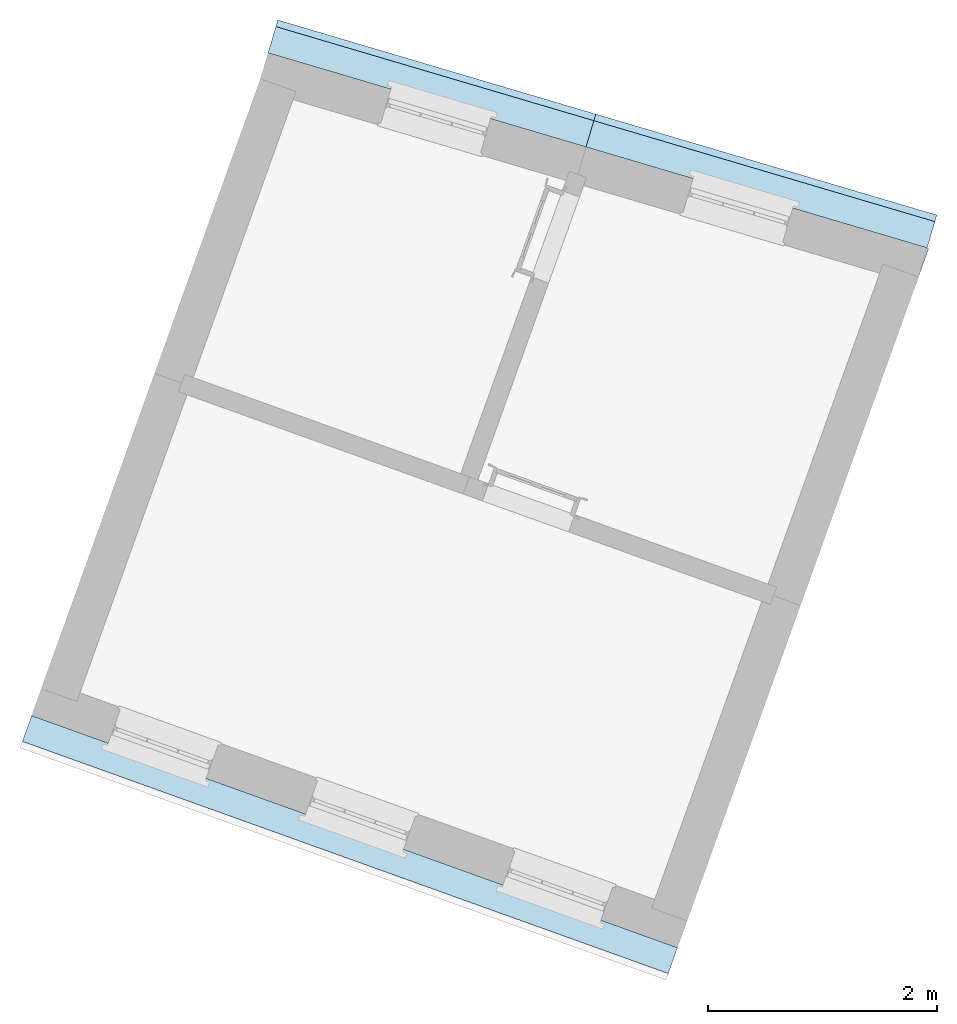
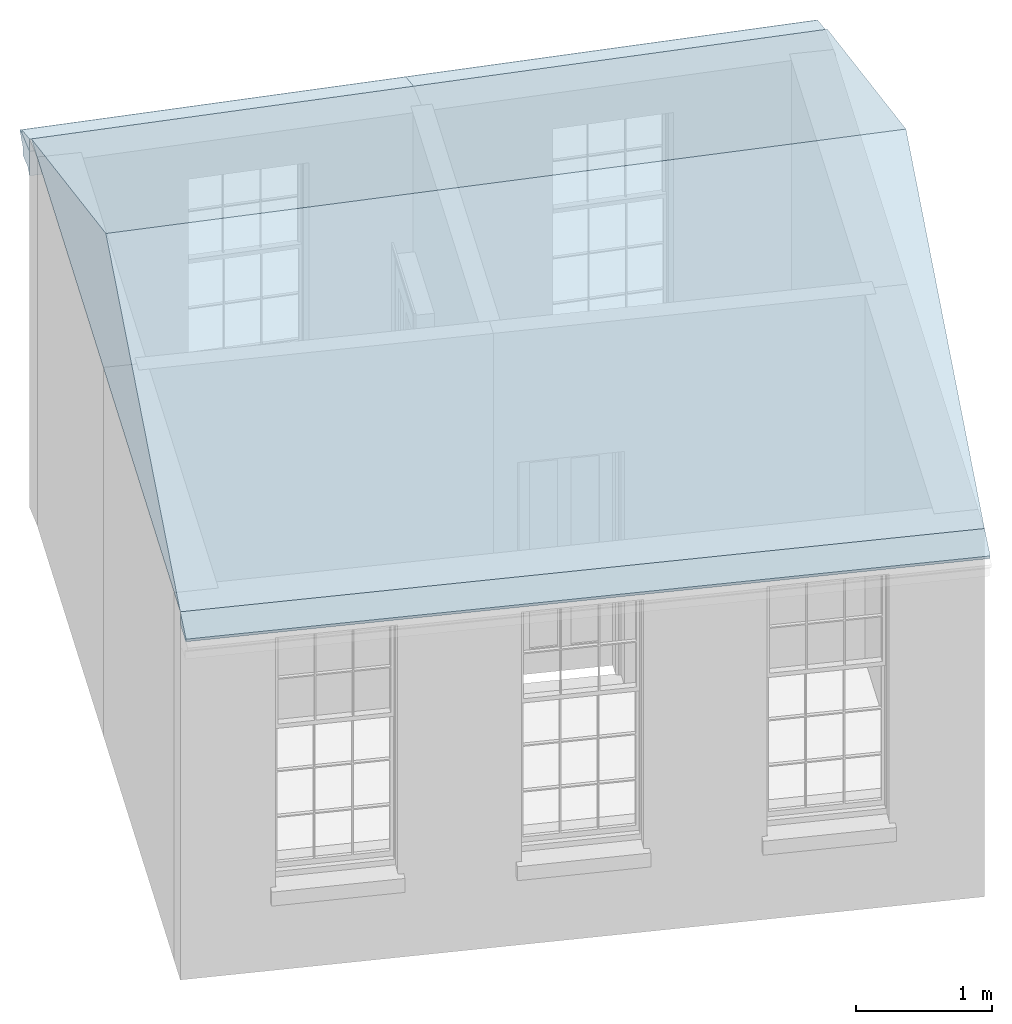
# One storey, part 3 of 3: 6 roofs.
"""IFC4 building model written with IfcOpenShell, lengths in metres."""

from ifc_helpers import new_model, si_unit, frame, origin, origin_with_axes, place, context, subcontext, project, spatial, polyline, outline, extrude, clip, halfspace, faceted_brep, material_profile, profile_set, profile_usage, type_object, element, save


model = new_model("IFC4")

# Units and contexts
model_context = context("Model", 3, world=origin_with_axes())
body_context = subcontext(model_context, "Body", "Model", "MODEL_VIEW")
ifc_project = project(units=[si_unit("PLANEANGLEUNIT", "RADIAN"), si_unit("MASSUNIT", "GRAM", prefix="KILO"), si_unit("FORCEUNIT", "NEWTON", prefix="KILO"), si_unit("LENGTHUNIT", "METRE"), si_unit("AREAUNIT", "SQUARE_METRE"), si_unit("VOLUMEUNIT", "CUBIC_METRE")], contexts=[model_context, model_context])

# Sites, building, storey
site_1_placement = place(None, origin_with_axes())
site_1 = spatial("IfcSite", under=ifc_project, at=site_1_placement, Name="Tamar")
site_2_placement = place(site_1_placement, origin_with_axes())
site_2 = spatial("IfcSite", under=site_1, at=site_2_placement, Name="Site plot-24", CompositionType="ELEMENT")
building_placement = place(None, origin_with_axes())
building = spatial("IfcBuilding", under=site_2, at=building_placement, Name="Building plot-24", CompositionType="ELEMENT")
storey_placement = place(None, frame((0.0, 0.0, 32.0), z_axis=(0.0, 0.0, 1.0), x_axis=(1.0, 0.0, 0.0)))
storey = spatial("IfcBuildingStorey", under=building, at=storey_placement, Name="plot-24 2", CompositionType="ELEMENT", Elevation=32.0)

# Roofs
ifc_material_profile_1 = material_profile(None, outline(polyline([(0.25, -0.11), (0.25, -0.33), (0.265, -0.33), (0.268, -0.318), (0.274, -0.309), (0.283, -0.303), (0.295, -0.3), (0.295, -0.285), (0.455, -0.285), (0.455, -0.205), (0.47, -0.205), (0.47, -0.19), (0.483, -0.189), (0.494, -0.186), (0.506, -0.179), (0.514, -0.17), (0.52, -0.16), (0.529, -0.149), (0.539, -0.143), (0.55, -0.14), (0.55, -0.12), (0.48, -0.11), (0.25, -0.11)])))
ifc_profile_set_1 = profile_set([ifc_material_profile_1])
ifc_profile_usage_1 = profile_usage(ifc_profile_set_1)
roof_type_1 = type_object("IfcRoofType", Name="eaves_0", PredefinedType="FREEFORM", material=ifc_profile_set_1)
roof_1_placement = place(storey_placement, frame((272.512130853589, 280.083853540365, 3.3), z_axis=(0.958899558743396, -0.283745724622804, 0.0), x_axis=(0.283745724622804, 0.958899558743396, 0.0)))
element("IfcRoof", 1, at=roof_1_placement, inside=storey, type_object=roof_type_1, material=ifc_profile_usage_1, Name="eaves_0", context=body_context, shape_type="Clipping", body=[
    clip(clip(extrude(outline(polyline([(0.25, -0.11), (0.25, -0.33), (0.265, -0.33), (0.268, -0.318), (0.274, -0.309), (0.283, -0.303), (0.295, -0.3), (0.295, -0.285), (0.455, -0.285), (0.455, -0.205), (0.47, -0.205), (0.47, -0.19), (0.483, -0.189), (0.494, -0.186), (0.506, -0.179), (0.514, -0.17), (0.52, -0.16), (0.529, -0.149), (0.539, -0.143), (0.55, -0.14), (0.55, -0.12), (0.48, -0.11), (0.25, -0.11)])), origin_with_axes(), (0.0, 0.0, 1.0), 5.10983964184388), halfspace(frame((0.0, 0.0, 4.10983964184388), z_axis=(3.49148133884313e-15, 0.0, -1.0), x_axis=(0.0, 1.0, 0.0)), True)), halfspace(frame((0.0, 0.0, 1.0), z_axis=(3.49148133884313e-15, 0.0, -1.0), x_axis=(0.0, 1.0, 0.0)), False)),
])
ifc_profile_usage_2 = profile_usage(ifc_profile_set_1)
roof_2_placement = place(storey_placement, frame((269.732097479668, 280.906486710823, 3.3), z_axis=(0.958899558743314, -0.283745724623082, 0.0), x_axis=(0.283745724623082, 0.958899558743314, 0.0)))
element("IfcRoof", 2, at=roof_2_placement, inside=storey, type_object=roof_type_1, material=ifc_profile_usage_2, Name="eaves_0", context=body_context, shape_type="Clipping", body=[
    clip(clip(extrude(outline(polyline([(0.25, -0.11), (0.25, -0.33), (0.265, -0.33), (0.268, -0.318), (0.274, -0.309), (0.283, -0.303), (0.295, -0.3), (0.295, -0.285), (0.455, -0.285), (0.455, -0.205), (0.47, -0.205), (0.47, -0.19), (0.483, -0.189), (0.494, -0.186), (0.506, -0.179), (0.514, -0.17), (0.52, -0.16), (0.529, -0.149), (0.539, -0.143), (0.55, -0.14), (0.55, -0.12), (0.48, -0.11), (0.25, -0.11)])), origin_with_axes(), (0.0, 0.0, 1.0), 4.89919142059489), halfspace(frame((0.0, 0.0, 3.89919142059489), z_axis=(-2.86054683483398e-13, 0.0, -1.0), x_axis=(0.0, 1.0, 0.0)), True)), halfspace(frame((0.0, 0.0, 1.0), z_axis=(2.60330291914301e-15, 0.0, -1.0), x_axis=(0.0, 1.0, 0.0)), False)),
])
ifc_material_profile_2 = material_profile(None, outline(polyline([(0.25, -0.11), (0.48, -0.11), (0.49, -0.08), (0.25, 0.0), (0.25, -0.11)])))
ifc_profile_set_2 = profile_set([ifc_material_profile_2])
ifc_profile_usage_3 = profile_usage(ifc_profile_set_2)
roof_type_2 = type_object("IfcRoofType", Name="eaves_1", PredefinedType="FREEFORM", material=ifc_profile_set_2)
roof_3_placement = place(storey_placement, frame((272.512130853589, 280.083853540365, 3.3), z_axis=(0.958899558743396, -0.283745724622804, 0.0), x_axis=(0.283745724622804, 0.958899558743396, 0.0)))
element("IfcRoof", 3, at=roof_3_placement, inside=storey, type_object=roof_type_2, material=ifc_profile_usage_3, Name="eaves_1", context=body_context, shape_type="Clipping", body=[
    clip(clip(extrude(outline(polyline([(0.25, -0.11), (0.48, -0.11), (0.49, -0.08), (0.25, 0.0), (0.25, -0.11)])), origin_with_axes(), (0.0, 0.0, 1.0), 5.10983964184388), halfspace(frame((0.0, 0.0, 4.10983964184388), z_axis=(3.49148133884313e-15, 0.0, -1.0), x_axis=(0.0, 1.0, 0.0)), True)), halfspace(frame((0.0, 0.0, 1.0), z_axis=(3.49148133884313e-15, 0.0, -1.0), x_axis=(0.0, 1.0, 0.0)), False)),
])
ifc_profile_usage_4 = profile_usage(ifc_profile_set_2)
roof_4_placement = place(storey_placement, frame((269.732097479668, 280.906486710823, 3.3), z_axis=(0.958899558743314, -0.283745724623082, 0.0), x_axis=(0.283745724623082, 0.958899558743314, 0.0)))
element("IfcRoof", 4, at=roof_4_placement, inside=storey, type_object=roof_type_2, material=ifc_profile_usage_4, Name="eaves_1", context=body_context, shape_type="Clipping", body=[
    clip(clip(extrude(outline(polyline([(0.25, -0.11), (0.48, -0.11), (0.49, -0.08), (0.25, 0.0), (0.25, -0.11)])), origin_with_axes(), (0.0, 0.0, 1.0), 4.89919142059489), halfspace(frame((0.0, 0.0, 3.89919142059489), z_axis=(-2.86054683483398e-13, 0.0, -1.0), x_axis=(0.0, 1.0, 0.0)), True)), halfspace(frame((0.0, 0.0, 1.0), z_axis=(2.60330291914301e-15, 0.0, -1.0), x_axis=(0.0, 1.0, 0.0)), False)),
])
ifc_material_profile_3 = material_profile(None, outline(polyline([(0.25, -0.11), (0.48, -0.11), (0.49, -0.08), (0.25, 0.0), (0.25, -0.11)])))
ifc_profile_set_3 = profile_set([ifc_material_profile_3])
ifc_profile_usage_5 = profile_usage(ifc_profile_set_3)
roof_type_3 = type_object("IfcRoofType", Name="eaves_1", PredefinedType="FREEFORM", material=ifc_profile_set_3)
roof_5_placement = place(storey_placement, frame((275.366971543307, 272.936855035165, 3.3), z_axis=(-0.941087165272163, 0.338164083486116, 0.0), x_axis=(-0.338164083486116, -0.941087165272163, 0.0)))
element("IfcRoof", 5, at=roof_5_placement, inside=storey, type_object=roof_type_3, material=ifc_profile_usage_5, Name="eaves_1", context=body_context, shape_type="Clipping", body=[
    clip(clip(extrude(outline(polyline([(0.25, -0.11), (0.48, -0.11), (0.49, -0.08), (0.25, 0.0), (0.25, -0.11)])), origin_with_axes(), (0.0, 0.0, 1.0), 8.00000000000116), halfspace(frame((0.0, 0.0, 7.00000000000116), z_axis=(-1.00532395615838e-14, 0.0, -1.0), x_axis=(0.0, 1.0, 0.0)), True)), halfspace(frame((0.0, 0.0, 1.0), z_axis=(-1.00532395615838e-14, 0.0, -1.0), x_axis=(0.0, 1.0, 0.0)), False)),
])
roof_6_placement = place(building_placement, origin())
element("IfcRoof", 6, at=roof_6_placement, inside=storey, Name="Roof", PredefinedType="FREEFORM", context=body_context, shape_type="Brep", body=[
    faceted_brep([(268.69482, 275.068732, 35.3), (274.341343, 273.039747, 35.3), (275.438835, 276.093989, 36.644305), (269.734198, 277.961249, 36.573123), (276.538128, 279.153246, 35.3), (270.775283, 280.858516, 35.3)], [[[0, 1, 2, 3]], [[4, 5, 3, 2]], [[5, 4, 1, 0]], [[5, 0, 3]], [[1, 4, 2]]]),
])

save(model, "model.ifc")
